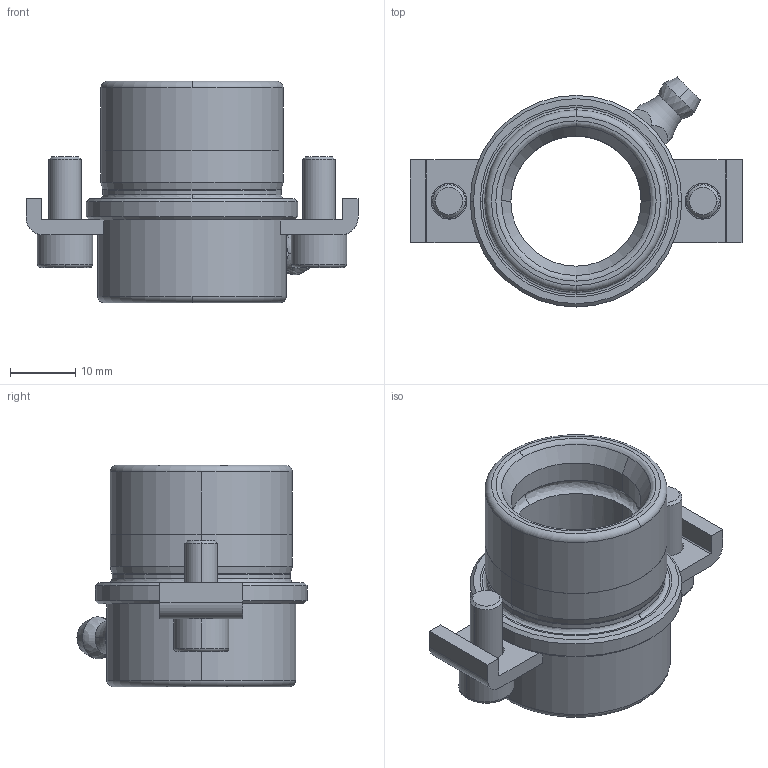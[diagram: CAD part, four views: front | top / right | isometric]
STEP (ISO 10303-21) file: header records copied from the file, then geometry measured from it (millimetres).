
FILE_DESCRIPTION((''),'2;1');
FILE_NAME('B10_020_016.stp','2008-11-04T11:44:33',(''),(''),'Mechanical Desktop 2009','Mechanical Desktop 2009',', , ');
FILE_SCHEMA(('CONFIG_CONTROL_DESIGN'));
Length unit declared in the file: millimetre
Products named in the file (2): Product; blmdl1
Assembly tree (1 placements, depth 2):
  Product
    blmdl1
Bounding box: 51 x 35.34 x 34 mm (x, y, z)
Volume: 12903 mm3; surface area: 8329.1 mm2
Topology: 6 solids, 6 shells, 130 faces, 330 edges, 218 vertices
Faces by surface type: plane 48, cylinder 38, cone 18, torus 14, bspline 12
Entity records: 4953 total; most frequent: CARTESIAN_POINT 1621, DIRECTION 724, ORIENTED_EDGE 652, EDGE_CURVE 326, AXIS2_PLACEMENT_3D 295, VERTEX_POINT 216, CIRCLE 175, EDGE_LOOP 146
